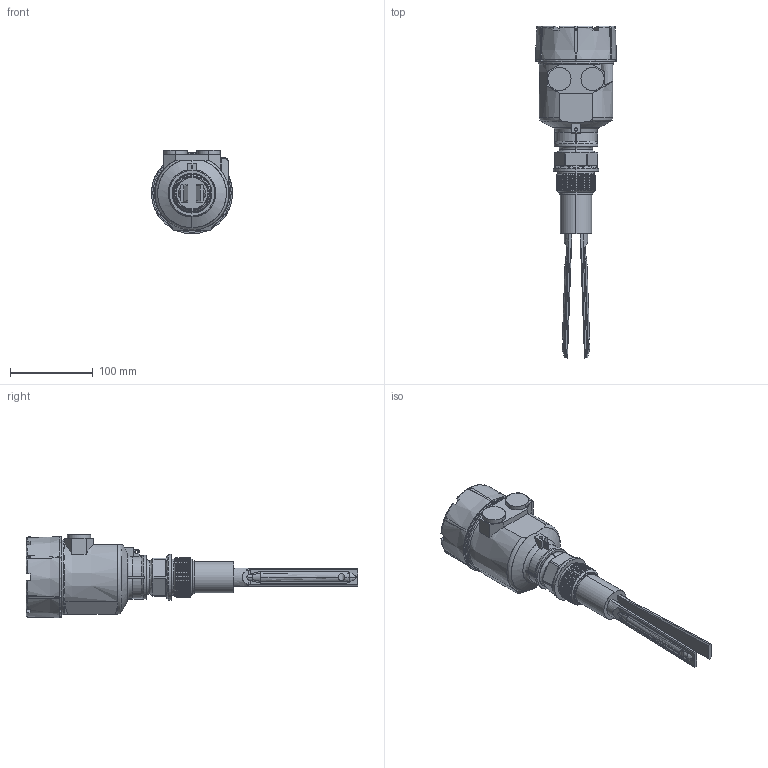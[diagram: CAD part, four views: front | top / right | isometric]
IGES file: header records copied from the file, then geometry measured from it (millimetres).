
Start section: SolidWorks IGES file using analytic representation for surfaces
Global section: file name: E:\HL产品尺寸图\三维外形图 201109\HL121-XXMZ70.IGS; native system: SolidWorks 2016; preprocessor: SolidWorks 2016; author: Administrator; date: 201109.163627; units: millimetre
Bounding box: 98 x 400.92 x 101 mm (x, y, z)
Surface area: 91972.5 mm2 (no closed solid volume)
Topology: 0 solids, 0 shells, 418 faces, 6353 edges, 6351 vertices
Faces by surface type: revolution 226, bspline 192
